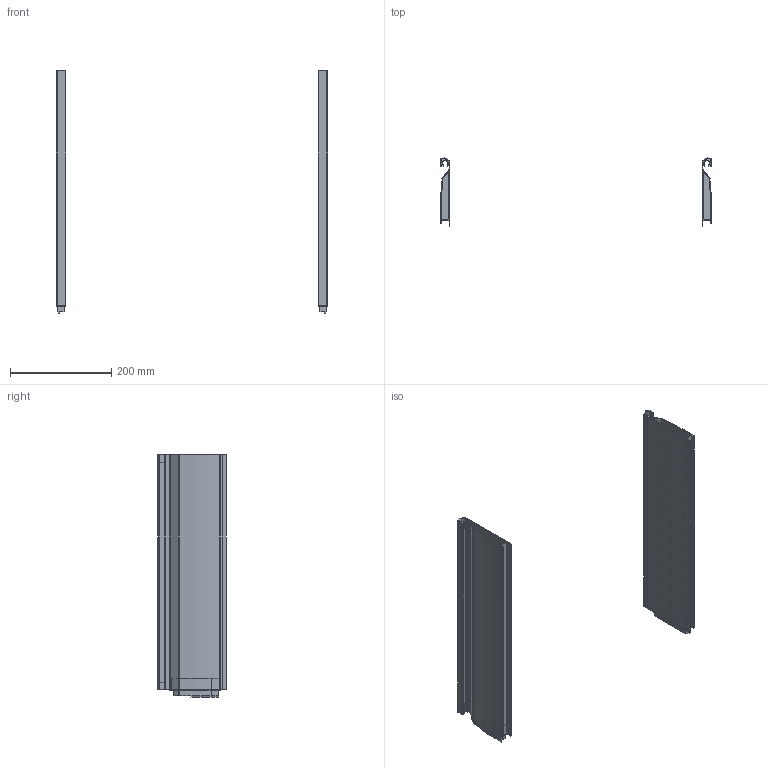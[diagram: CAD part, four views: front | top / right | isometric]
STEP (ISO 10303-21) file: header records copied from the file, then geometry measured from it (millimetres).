
FILE_DESCRIPTION (( 'STEP AP203' ), '1' );
FILE_NAME ('StrongBox zvýšená boènice dvojitá 500 mm 146795_3D a 179279_3D.STEP', '2020-07-07T09:58:47', ( '' ), ( '' ), 'SwSTEP 2.0', 'SolidWorks 2019', '' );
FILE_SCHEMA (( 'CONFIG_CONTROL_DESIGN' ));
Length unit declared in the file: millimetre
Products named in the file (5): StrongBox zvýšená boènice dvojitá 450 mm_179278_3D cast 2; StrongBox zvýšená boènice dvojitá 500 mm 146795_3D a 179279_3D; StrongBox zvýšená boènice dvojitá 500 mm_146795_3D cast 1; ZrcadleníStrongBox zvýšená boènice dvojitá 450 mm_179278_3D cast 2; StrongBox zvýšená boènice dvojitá 450 mm_179278_3D cast 3
Assembly tree (8 placements, depth 2):
  StrongBox zvýšená boènice dvojitá 500 mm 146795_3D a 179279_3D
    StrongBox zvýšená boènice dvojitá 500 mm_146795_3D cast 1  x2
    StrongBox zvýšená boènice dvojitá 450 mm_179278_3D cast 2
    StrongBox zvýšená boènice dvojitá 450 mm_179278_3D cast 3  x4
    ZrcadleníStrongBox zvýšená boènice dvojitá 450 mm_179278_3D cast 2
Bounding box: 537 x 135 x 480.3 mm (x, y, z)
Volume: 433018 mm3; surface area: 556551.7 mm2
Topology: 8 solids, 8 shells, 322 faces, 904 edges, 602 vertices
Faces by surface type: cylinder 182, plane 136, cone 4
Entity records: 6445 total; most frequent: DIRECTION 1052, CARTESIAN_POINT 1003, ORIENTED_EDGE 968, EDGE_CURVE 484, AXIS2_PLACEMENT_3D 387, VERTEX_POINT 322, VECTOR 278, LINE 278
